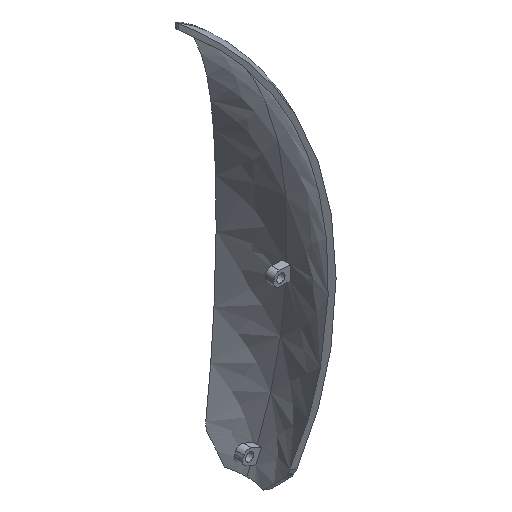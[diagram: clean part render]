
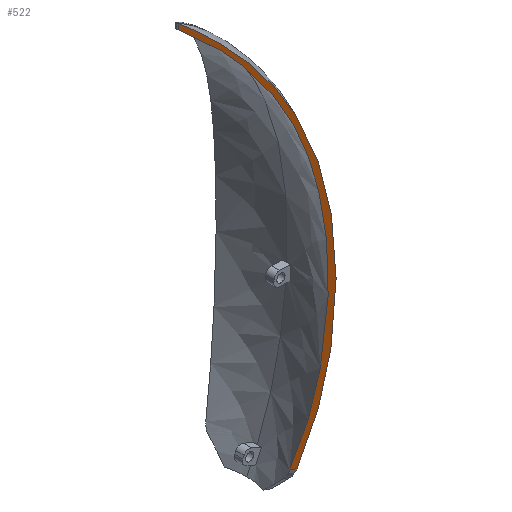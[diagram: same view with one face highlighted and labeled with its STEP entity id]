
A CAD part, isometric view. The second image highlights one B-rep face of the part: STEP entity #522.
In plain terms, the highlighted planar face has unit normal (-0.5, -0.866, 0).
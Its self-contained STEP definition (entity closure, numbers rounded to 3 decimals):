
#61=LINE('',#1561,#85);
#85=VECTOR('',#656,10.);
#98=PLANE('',#568);
#132=FACE_OUTER_BOUND('',#164,.T.);
#164=EDGE_LOOP('',(#489,#490,#491,#492));
#166=B_SPLINE_CURVE_WITH_KNOTS('',3,(#710,#711,#712,#713),.UNSPECIFIED.,
 .F.,.F.,(4,4),(-0.441,-0.244),.UNSPECIFIED.);
#172=B_SPLINE_CURVE_WITH_KNOTS('',3,(#899,#900,#901,#902,#903,#904,#905,
#906,#907,#908,#909,#910),.UNSPECIFIED.,.F.,.F.,(4,2,2,2,2,4),(0.086,
0.809,1.371,2.558,4.533,5.588),
 .UNSPECIFIED.);
#206=B_SPLINE_CURVE_WITH_KNOTS('',3,(#1705,#1706,#1707,#1708,#1709,#1710,
#1711,#1712,#1713,#1714,#1715,#1716),.UNSPECIFIED.,.F.,.F.,(4,2,2,2,2,4),
(1.104,4.184,9.608,13.022,14.658,
16.787),.UNSPECIFIED.);
#208=VERTEX_POINT('',#677);
#209=VERTEX_POINT('',#709);
#213=VERTEX_POINT('',#898);
#258=VERTEX_POINT('',#1560);
#260=EDGE_CURVE('',#208,#209,#166,.T.);
#266=EDGE_CURVE('',#213,#209,#172,.T.);
#334=EDGE_CURVE('',#213,#258,#61,.T.);
#336=EDGE_CURVE('',#208,#258,#206,.T.);
#489=ORIENTED_EDGE('',*,*,#260,.F.);
#490=ORIENTED_EDGE('',*,*,#336,.T.);
#491=ORIENTED_EDGE('',*,*,#334,.F.);
#492=ORIENTED_EDGE('',*,*,#266,.T.);
#522=ADVANCED_FACE('',(#132),#98,.F.);
#568=AXIS2_PLACEMENT_3D('',#1717,#657,#658);
#656=DIRECTION('',(0.,0.,1.));
#657=DIRECTION('center_axis',(0.5,0.866,0.));
#658=DIRECTION('ref_axis',(0.866,-0.5,0.));
#677=CARTESIAN_POINT('',(28.095,-16.221,14.772));
#709=CARTESIAN_POINT('',(26.392,-15.237,14.747));
#710=CARTESIAN_POINT('Ctrl Pts',(28.095,-16.221,14.772));
#711=CARTESIAN_POINT('Ctrl Pts',(27.527,-15.893,14.766));
#712=CARTESIAN_POINT('Ctrl Pts',(26.959,-15.565,14.757));
#713=CARTESIAN_POINT('Ctrl Pts',(26.392,-15.237,14.747));
#898=CARTESIAN_POINT('',(0.75,-0.433,158.689));
#899=CARTESIAN_POINT('Ctrl Pts',(0.75,-0.433,158.689));
#900=CARTESIAN_POINT('Ctrl Pts',(3.007,-1.736,157.037));
#901=CARTESIAN_POINT('Ctrl Pts',(7.213,-4.164,153.801));
#902=CARTESIAN_POINT('Ctrl Pts',(15.319,-8.845,144.887));
#903=CARTESIAN_POINT('Ctrl Pts',(18.459,-10.657,140.591));
#904=CARTESIAN_POINT('Ctrl Pts',(26.971,-15.572,125.978));
#905=CARTESIAN_POINT('Ctrl Pts',(30.602,-17.668,114.85));
#906=CARTESIAN_POINT('Ctrl Pts',(36.312,-20.965,83.777));
#907=CARTESIAN_POINT('Ctrl Pts',(35.89,-20.721,62.22));
#908=CARTESIAN_POINT('Ctrl Pts',(31.839,-18.382,34.115));
#909=CARTESIAN_POINT('Ctrl Pts',(29.631,-17.108,24.114));
#910=CARTESIAN_POINT('Ctrl Pts',(26.392,-15.237,14.747));
#1560=CARTESIAN_POINT('',(0.75,-0.433,160.689));
#1561=CARTESIAN_POINT('',(0.75,-0.433,80.027));
#1705=CARTESIAN_POINT('Ctrl Pts',(28.095,-16.221,14.772));
#1706=CARTESIAN_POINT('Ctrl Pts',(31.438,-18.15,24.454));
#1707=CARTESIAN_POINT('Ctrl Pts',(33.703,-19.458,34.806));
#1708=CARTESIAN_POINT('Ctrl Pts',(37.63,-21.726,62.726));
#1709=CARTESIAN_POINT('Ctrl Pts',(38.078,-21.984,83.74));
#1710=CARTESIAN_POINT('Ctrl Pts',(32.315,-18.657,115.065));
#1711=CARTESIAN_POINT('Ctrl Pts',(28.5,-16.454,126.508));
#1712=CARTESIAN_POINT('Ctrl Pts',(19.55,-11.287,141.646));
#1713=CARTESIAN_POINT('Ctrl Pts',(16.225,-9.368,146.128));
#1714=CARTESIAN_POINT('Ctrl Pts',(7.621,-4.4,155.502));
#1715=CARTESIAN_POINT('Ctrl Pts',(3.121,-1.802,158.952));
#1716=CARTESIAN_POINT('Ctrl Pts',(0.75,-0.433,160.689));
#1717=CARTESIAN_POINT('Origin',(18.213,-10.515,80.027));
